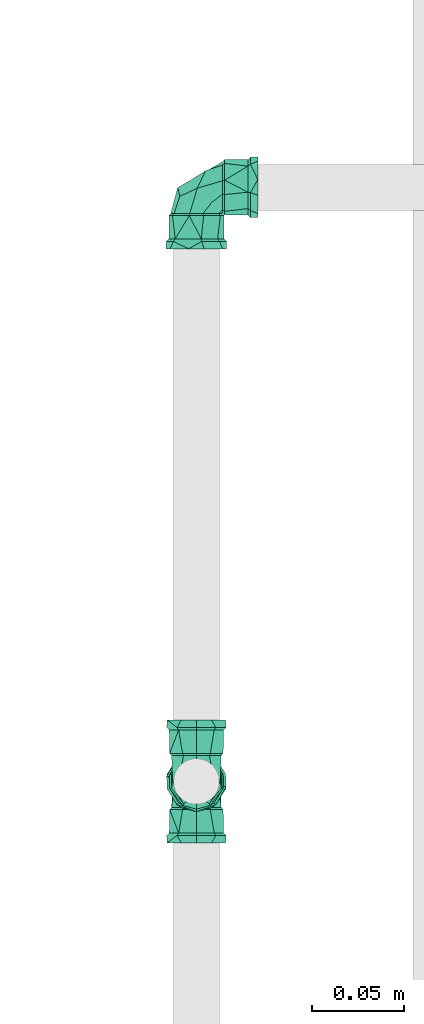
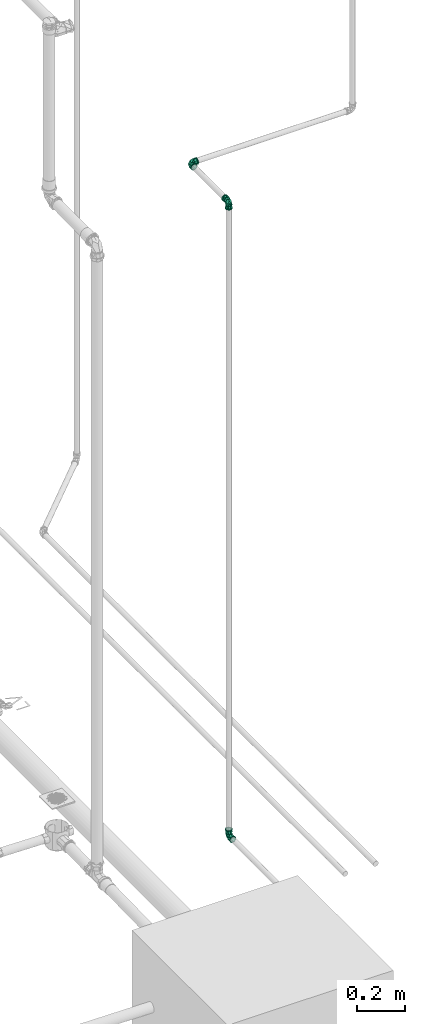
# One storey, part 319 of 589: 3 flow fittings.
"""IFC2X3 building model written with IfcOpenShell, lengths in millimetres."""

from ifc_helpers import new_model, entity, si_unit, converted_unit, derived_unit, direction, frame, origin, place, context, subcontext, project, spatial, faceted_brep, source, transform, mapped, material, type_object, type_shapes, element, save


model = new_model("IFC2X3")

# Units and contexts
model_context = context("Model", 3, precision=0.01, world=origin(), true_north=direction((6.123031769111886e-17, 1.0)))
body_context = subcontext(model_context, "Body", "Model", "MODEL_VIEW")
ifc_project = project(units=[si_unit("LENGTHUNIT", "METRE", prefix="MILLI"), si_unit("AREAUNIT", "SQUARE_METRE"), si_unit("VOLUMEUNIT", "CUBIC_METRE"), converted_unit("PLANEANGLEUNIT", "DEGREE", entity("IfcRatioMeasure", 0.017453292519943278), si_unit("PLANEANGLEUNIT", "RADIAN"), dimensions=[0, 0, 0, 0, 0, 0, 0]), si_unit("MASSUNIT", "GRAM", prefix="KILO"), derived_unit("MASSDENSITYUNIT", [(si_unit("MASSUNIT", "GRAM", prefix="KILO"), 1), (si_unit("LENGTHUNIT", "METRE"), -3)]), derived_unit("IONCONCENTRATIONUNIT", [(si_unit("MASSUNIT", "GRAM", prefix="KILO"), 1), (si_unit("LENGTHUNIT", "METRE"), -3)]), derived_unit("MOMENTOFINERTIAUNIT", [(si_unit("LENGTHUNIT", "METRE"), 4)]), si_unit("TIMEUNIT", "SECOND"), si_unit("FREQUENCYUNIT", "HERTZ"), si_unit("THERMODYNAMICTEMPERATUREUNIT", "DEGREE_CELSIUS"), derived_unit("THERMALTRANSMITTANCEUNIT", [(si_unit("MASSUNIT", "GRAM", prefix="KILO"), 1), (si_unit("THERMODYNAMICTEMPERATUREUNIT", "KELVIN"), -1), (si_unit("TIMEUNIT", "SECOND"), -3)]), derived_unit("THERMALCONDUCTANCEUNIT", [(si_unit("MASSUNIT", "GRAM", prefix="KILO"), 1), (si_unit("THERMODYNAMICTEMPERATUREUNIT", "KELVIN"), -1), (si_unit("TIMEUNIT", "SECOND"), -3), (si_unit("LENGTHUNIT", "METRE"), 1)]), derived_unit("VOLUMETRICFLOWRATEUNIT", [(si_unit("LENGTHUNIT", "METRE"), 3), (si_unit("TIMEUNIT", "SECOND"), -1)]), derived_unit("MASSFLOWRATEUNIT", [(si_unit("MASSUNIT", "GRAM", prefix="KILO"), 1), (si_unit("TIMEUNIT", "SECOND"), -1)]), derived_unit("ROTATIONALFREQUENCYUNIT", [(si_unit("TIMEUNIT", "SECOND"), -1)]), si_unit("ELECTRICCURRENTUNIT", "AMPERE"), si_unit("ELECTRICVOLTAGEUNIT", "VOLT"), si_unit("POWERUNIT", "WATT"), si_unit("FORCEUNIT", "NEWTON", prefix="KILO"), si_unit("ILLUMINANCEUNIT", "LUX"), si_unit("LUMINOUSFLUXUNIT", "LUMEN"), si_unit("LUMINOUSINTENSITYUNIT", "CANDELA"), derived_unit("USERDEFINED", [(si_unit("MASSUNIT", "GRAM", prefix="KILO"), -1), (si_unit("LENGTHUNIT", "METRE"), -2), (si_unit("TIMEUNIT", "SECOND"), 3), (si_unit("LUMINOUSFLUXUNIT", "LUMEN"), 1)]), derived_unit("USERDEFINED", [(si_unit("MASSUNIT", "GRAM", prefix="KILO"), 1), (si_unit("TIMEUNIT", "SECOND"), -3), (si_unit("LENGTHUNIT", "METRE"), 3), (si_unit("ELECTRICCURRENTUNIT", "AMPERE"), -2)]), derived_unit("SOUNDPOWERUNIT", [(si_unit("MASSUNIT", "GRAM", prefix="KILO"), 1), (si_unit("TIMEUNIT", "SECOND"), -3), (si_unit("LENGTHUNIT", "METRE"), 2)]), derived_unit("SOUNDPRESSUREUNIT", [(si_unit("MASSUNIT", "GRAM", prefix="KILO"), 1), (si_unit("LENGTHUNIT", "METRE"), -1), (si_unit("TIMEUNIT", "SECOND"), -2)]), derived_unit("LINEARVELOCITYUNIT", [(si_unit("LENGTHUNIT", "METRE"), 1), (si_unit("TIMEUNIT", "SECOND"), -1)]), si_unit("PRESSUREUNIT", "PASCAL"), derived_unit("USERDEFINED", [(si_unit("MASSUNIT", "GRAM", prefix="KILO"), 1), (si_unit("LENGTHUNIT", "METRE"), -2), (si_unit("TIMEUNIT", "SECOND"), -2)]), derived_unit("LINEARFORCEUNIT", [(si_unit("MASSUNIT", "GRAM", prefix="KILO"), 1), (si_unit("TIMEUNIT", "SECOND"), -2)]), derived_unit("PLANARFORCEUNIT", [(si_unit("MASSUNIT", "GRAM", prefix="KILO"), 1), (si_unit("LENGTHUNIT", "METRE"), -1), (si_unit("TIMEUNIT", "SECOND"), -2)]), derived_unit("SPECIFICHEATCAPACITYUNIT", [(si_unit("THERMODYNAMICTEMPERATUREUNIT", "KELVIN"), -1), (si_unit("LENGTHUNIT", "METRE"), 2), (si_unit("TIMEUNIT", "SECOND"), -2)]), derived_unit("HEATINGVALUEUNIT", [(si_unit("LENGTHUNIT", "METRE"), 2), (si_unit("TIMEUNIT", "SECOND"), -2)]), derived_unit("VAPORPERMEABILITYUNIT", [(si_unit("LENGTHUNIT", "METRE"), -1), (si_unit("TIMEUNIT", "SECOND"), 1)]), derived_unit("DYNAMICVISCOSITYUNIT", [(si_unit("MASSUNIT", "GRAM", prefix="KILO"), 1), (si_unit("TIMEUNIT", "SECOND"), -1), (si_unit("LENGTHUNIT", "METRE"), -1)]), derived_unit("THERMALEXPANSIONCOEFFICIENTUNIT", [(si_unit("THERMODYNAMICTEMPERATUREUNIT", "KELVIN"), -1)]), derived_unit("MODULUSOFELASTICITYUNIT", [(si_unit("MASSUNIT", "GRAM", prefix="KILO"), 1), (si_unit("LENGTHUNIT", "METRE"), -1), (si_unit("TIMEUNIT", "SECOND"), -2)]), derived_unit("ISOTHERMALMOISTURECAPACITYUNIT", [(si_unit("LENGTHUNIT", "METRE"), 3), (si_unit("MASSUNIT", "GRAM", prefix="KILO"), -1)]), derived_unit("MOISTUREDIFFUSIVITYUNIT", [(si_unit("TIMEUNIT", "SECOND"), -1), (si_unit("LENGTHUNIT", "METRE"), 2)])], contexts=[model_context])

# Site, building, storey
site_placement = place(None, origin())
site = spatial("IfcSite", under=ifc_project, at=site_placement, Name="Default", CompositionType="ELEMENT")
building_placement = place(site_placement, origin())
building = spatial("IfcBuilding", under=site, at=building_placement, CompositionType="ELEMENT")
storey_placement = place(building_placement, frame((0.0, 0.0, 100.0)))
storey = spatial("IfcBuildingStorey", under=building, at=storey_placement, Name="TÉRREO", CompositionType="ELEMENT", Elevation=100.0)

# Flow fittings
ifc_material = material(Name="PVC Marrom")
pipe_fitting_type = type_object("IfcPipeFittingType", Name="PVC Marrom Soldável_Joelho 45°_90°_Rodrigo MEP:Joelho", PredefinedType="NOTDEFINED", material=ifc_material)
shared_shape = source(origin(), body_context, "Body", "Brep", [
    faceted_brep([(3.908167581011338, 15.40000000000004, 14.585479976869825), (13.076983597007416, 15.40000000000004, 7.549999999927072), (15.099999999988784, 15.40000000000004, 0.0), (13.076983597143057, 15.40000000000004, -7.55000000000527), (3.9081675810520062, 15.40000000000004, -14.585479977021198), (-3.9081675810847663, 15.40000000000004, -14.585479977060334), (-13.076983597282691, 15.40000000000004, -7.550000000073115), (-15.100000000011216, 15.40000000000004, 0.0), (-13.076983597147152, 15.40000000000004, 7.549999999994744), (-3.908167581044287, 15.40000000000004, 14.585479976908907), (-3.633819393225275, 14.30000000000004, 13.561598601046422), (-12.158996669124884, 14.30000000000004, 7.0199999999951), (-14.040000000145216, 14.30000000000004, 0.0), (-12.158996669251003, 14.30000000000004, -7.020000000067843), (-3.6338193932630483, 14.30000000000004, -13.561598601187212), (3.6338193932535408, 14.30000000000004, -13.561598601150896), (12.158996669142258, 14.30000000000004, -7.020000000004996), (14.039999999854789, 14.30000000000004, 0.0), (12.158996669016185, 14.30000000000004, 7.0199999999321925), (3.6338193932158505, 14.30000000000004, 13.561598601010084)], [[[0, 1, 2, 3, 4, 5, 6, 7, 8, 9]], [[10, 11, 12, 13, 14, 15, 16, 17, 18, 19]], [[3, 17, 16]], [[4, 3, 16, 15]], [[3, 2, 17]], [[15, 14, 5, 4]], [[6, 5, 14, 13]], [[7, 13, 12]], [[7, 6, 13]], [[8, 12, 11]], [[9, 8, 11, 10]], [[8, 7, 12]], [[10, 19, 0, 9]], [[1, 0, 19, 18]], [[2, 18, 17]], [[2, 1, 18]]]),
    faceted_brep([(-15.399999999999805, 3.908167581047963, 14.585479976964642), (-15.399999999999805, 13.076983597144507, 7.549999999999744), (-15.399999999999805, 15.100000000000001, 0.0), (-15.399999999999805, 13.076983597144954, -7.54999999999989), (-15.399999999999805, 3.9081675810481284, -14.58547997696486), (-15.399999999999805, -3.9081675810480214, -14.585479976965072), (-15.399999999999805, -13.0769835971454, -7.550000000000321), (-15.399999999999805, -15.099999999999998, 0.0), (-15.399999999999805, -13.076983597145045, 7.550000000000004), (-15.399999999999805, -3.908167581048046, 14.585479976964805), (-14.299999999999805, 12.158996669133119, 7.019999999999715), (-14.299999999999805, 3.6338193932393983, 13.561598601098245), (-14.299999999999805, -3.633819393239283, 13.56159860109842), (-14.299999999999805, -12.15899666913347, 7.020000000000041), (-14.299999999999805, -14.040000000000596, 0.0), (-14.299999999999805, -12.158996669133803, -7.020000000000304), (-14.299999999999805, -3.63381939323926, -13.561598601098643), (-14.299999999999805, 3.6338193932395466, -13.56159860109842), (-14.299999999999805, 12.158996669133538, -7.019999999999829), (-14.299999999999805, 14.03999999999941, 0.0)], [[[0, 1, 2, 3, 4, 5, 6, 7, 8, 9]], [[10, 11, 12, 13, 14, 15, 16, 17, 18, 19]], [[3, 2, 19, 18]], [[4, 3, 18, 17]], [[17, 16, 5, 4]], [[6, 5, 16, 15]], [[7, 6, 15, 14]], [[8, 7, 14, 13]], [[9, 8, 13, 12]], [[12, 11, 0, 9]], [[1, 0, 11, 10]], [[2, 1, 10, 19]]]),
    faceted_brep([(-33.4999999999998, -4.2705142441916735, -15.937776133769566), (-33.4999999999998, -6.250000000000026, -10.825317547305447), (-33.4999999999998, 0.0, -12.5), (-33.4999999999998, -14.289419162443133, -8.25000000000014), (-33.4999999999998, 4.270514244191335, -15.937776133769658), (-33.4999999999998, -12.074072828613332, -3.23523806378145), (-33.4999999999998, -16.499999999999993, 0.0), (-33.4999999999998, -12.074072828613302, 3.2352380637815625), (-33.4999999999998, -14.289419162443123, 8.249999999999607), (-33.4999999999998, -6.249999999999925, 10.825317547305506), (-33.4999999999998, -4.27051424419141, 15.937776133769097), (-33.4999999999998, 0.0, 12.5), (-33.4999999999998, 4.270514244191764, 15.937776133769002), (-33.4999999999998, 6.249999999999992, 10.825317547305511), (-33.4999999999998, 14.28941916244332, 8.249999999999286), (-33.4999999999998, 12.074072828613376, 3.2352380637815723), (-33.4999999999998, 16.500000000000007, 0.0), (-33.4999999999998, 12.074072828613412, -3.235238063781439), (-33.4999999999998, 14.289419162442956, -8.250000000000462), (-33.4999999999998, 6.250000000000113, -10.82531754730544), (-29.499999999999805, 16.5, 0.0), (-29.500000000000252, 12.639142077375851, 10.606700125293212), (-29.50000000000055, 2.8633833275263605, 16.249647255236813), (-29.50000000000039, -12.64180232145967, 10.603529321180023), (-29.499999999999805, -16.499999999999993, 0.0), (-29.500000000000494, -4.889209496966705, 13.426588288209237), (-29.49999999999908, -12.641802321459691, -10.603529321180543), (-29.49999999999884, -2.8674593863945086, -16.24892847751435), (-29.499999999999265, 12.639142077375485, -10.606700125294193), (-29.499999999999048, 4.885841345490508, -13.427814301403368), (-28.099999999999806, -15.099999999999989, 0.0), (-28.10000000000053, -11.56916454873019, 9.703835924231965), (-28.100000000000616, -4.474367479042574, 12.287362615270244), (-28.1000000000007, 2.6204295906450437, 14.870889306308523), (-28.100000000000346, 11.566730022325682, 9.706737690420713), (-28.09999999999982, 15.099999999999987, 0.0), (-28.099999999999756, 11.566730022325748, -9.706737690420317), (-28.09999999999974, 4.4712851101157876, -12.28848460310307), (-28.09999999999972, -2.6241598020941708, -14.870231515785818), (-28.09999999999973, -11.569164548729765, -9.703835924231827), (-15.399999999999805, 0.0, -12.5), (-15.399999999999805, -6.250000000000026, -10.825317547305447), (-15.399999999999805, -3.908167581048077, -14.585479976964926), (-15.399999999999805, 3.9081675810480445, -14.585479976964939), (-15.399999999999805, 6.250000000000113, -10.82531754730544), (-15.399999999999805, -13.076983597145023, -7.549999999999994), (-15.399999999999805, -12.074072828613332, -3.23523806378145), (-15.399999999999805, -15.099999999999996, 0.0), (-15.399999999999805, -12.074072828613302, 3.2352380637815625), (-15.399999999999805, -13.076983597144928, 7.550000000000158), (-15.399999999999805, -6.249999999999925, 10.825317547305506), (-15.399999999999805, -3.9081675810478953, 14.585479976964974), (-15.399999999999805, 0.0, 12.5), (-15.399999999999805, 3.9081675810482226, 14.58547997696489), (-15.399999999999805, 6.249999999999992, 10.825317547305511), (-15.399999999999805, 13.076983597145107, 7.549999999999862), (-15.399999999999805, 12.074072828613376, 3.2352380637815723), (-15.399999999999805, 15.100000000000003, 0.0), (-15.399999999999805, 12.074072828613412, -3.235238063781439), (-15.399999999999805, 13.076983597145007, -7.550000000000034)], [[[0, 1, 2]], [[1, 0, 3]], [[2, 4, 0]], [[3, 5, 1]], [[3, 6, 5]], [[5, 6, 7]], [[8, 7, 6]], [[7, 8, 9]], [[10, 9, 8]], [[9, 10, 11]], [[11, 10, 12]], [[12, 13, 11]], [[14, 13, 12]], [[13, 14, 15]], [[16, 15, 14]], [[16, 17, 15]], [[18, 17, 16]], [[19, 17, 18]], [[19, 18, 4]], [[4, 2, 19]], [[16, 14, 20]], [[14, 21, 20]], [[21, 14, 12]], [[21, 12, 22]], [[23, 10, 8]], [[24, 8, 6]], [[10, 23, 25, 22]], [[23, 8, 24]], [[10, 22, 12]], [[6, 3, 24]], [[3, 26, 24]], [[26, 3, 0]], [[26, 0, 27]], [[28, 4, 18]], [[20, 18, 16]], [[4, 28, 29, 27]], [[28, 18, 20]], [[4, 27, 0]], [[30, 31, 23, 24]], [[31, 32, 33, 22, 25, 23]], [[34, 35, 20, 21]], [[34, 21, 22, 33]], [[35, 36, 28, 20]], [[36, 37, 38, 27, 29, 28]], [[39, 30, 24, 26]], [[39, 26, 27, 38]], [[40, 41, 42]], [[42, 43, 40]], [[44, 40, 43]], [[45, 42, 41]], [[41, 46, 45]], [[46, 47, 45]], [[48, 47, 46]], [[47, 48, 49]], [[50, 49, 48]], [[49, 50, 51]], [[52, 51, 50]], [[53, 51, 52]], [[52, 54, 53]], [[53, 54, 55]], [[56, 55, 54]], [[55, 56, 57]], [[56, 58, 57]], [[59, 58, 44]], [[57, 58, 59]], [[43, 59, 44]], [[35, 34, 55]], [[35, 55, 57]], [[55, 34, 53]], [[34, 33, 53]], [[51, 33, 32, 31]], [[49, 31, 30]], [[31, 49, 51]], [[49, 30, 47]], [[33, 51, 53]], [[30, 39, 45]], [[30, 45, 47]], [[45, 39, 42]], [[39, 38, 42]], [[43, 38, 37, 36]], [[59, 36, 35]], [[36, 59, 43]], [[59, 35, 57]], [[38, 43, 42]], [[9, 11, 52, 50]], [[7, 9, 50, 48]], [[48, 46, 5, 7]], [[1, 5, 46, 41]], [[2, 1, 41, 40]], [[19, 2, 40, 44]], [[17, 19, 44, 58]], [[58, 56, 15, 17]], [[13, 15, 56, 54]], [[11, 13, 54, 52]]]),
    faceted_brep([(-14.299999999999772, -3.6338193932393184, -13.561598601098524), (-14.299999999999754, -12.158996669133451, -7.020000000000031), (-14.29999999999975, -14.039999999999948, 0.0), (-14.299999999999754, -12.158996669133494, 7.019999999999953), (-14.299999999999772, -3.6338193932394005, 13.561598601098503), (-14.299999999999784, 3.633819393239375, 13.561598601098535), (-14.299999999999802, 12.158996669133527, 7.0200000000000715), (-14.299999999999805, 14.04000000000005, 0.0), (-14.299999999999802, 12.158996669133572, -7.019999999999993), (-14.299999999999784, 3.63381939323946, -13.561598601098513), (3.633819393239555, 14.29999999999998, -13.561598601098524), (-3.633819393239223, 14.300000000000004, -13.561598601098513), (-12.158996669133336, 14.300000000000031, -7.019999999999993), (-14.039999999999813, 14.300000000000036, 0.0), (-12.158996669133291, 14.300000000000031, 7.0200000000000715), (-3.6338193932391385, 14.300000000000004, 13.561598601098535), (3.6338193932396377, 14.29999999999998, 13.561598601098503), (12.158996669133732, 14.299999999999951, 7.019999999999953), (14.040000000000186, 14.299999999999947, 0.0), (12.158996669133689, 14.299999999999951, -7.020000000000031), (-0.45476175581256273, 0.4547603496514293, 13.009299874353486), (-4.991226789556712, -9.102895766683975, 8.866254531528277), (-2.689013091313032, -7.336393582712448, 0.0), (3.7770734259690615, -3.6031967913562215, 0.0), (9.09033094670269, 4.905775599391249, 8.841582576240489), (10.243159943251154, 0.13000000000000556, 0.0), (-14.116152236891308, 14.116152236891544, 0.0), (-8.296884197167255, 8.29688403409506, 12.78130953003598), (-0.454761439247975, 0.45476027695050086, -13.009299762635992), (-8.296884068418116, 8.296883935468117, -12.78130960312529), (9.090330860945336, 4.90577564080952, -8.84158269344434), (-4.991226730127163, -9.10289574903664, -8.866254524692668)], [[[0, 1, 2, 3, 4, 5, 6, 7, 8, 9]], [[10, 11, 12, 13, 14, 15, 16, 17, 18, 19]], [[4, 20, 5]], [[21, 3, 22]], [[20, 4, 21]], [[21, 22, 23]], [[17, 24, 25]], [[26, 6, 14]], [[23, 20, 21]], [[26, 7, 6]], [[6, 5, 27]], [[3, 2, 22]], [[20, 23, 24]], [[25, 18, 17]], [[20, 27, 5]], [[16, 20, 24]], [[17, 16, 24]], [[6, 27, 14]], [[26, 14, 13]], [[21, 4, 3]], [[27, 15, 14]], [[27, 20, 15]], [[23, 25, 24]], [[15, 20, 16]], [[8, 7, 26]], [[28, 29, 11]], [[28, 10, 30]], [[8, 12, 29]], [[31, 22, 1]], [[31, 23, 22]], [[28, 9, 29]], [[19, 30, 10]], [[0, 28, 31]], [[1, 22, 2]], [[8, 26, 12]], [[12, 11, 29]], [[8, 29, 9]], [[31, 1, 0]], [[10, 28, 11]], [[30, 19, 25]], [[0, 9, 28]], [[19, 18, 25]], [[25, 23, 30]], [[23, 31, 28]], [[30, 23, 28]], [[12, 26, 13]]]),
    faceted_brep([(0.0, 15.40000000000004, -12.5), (-6.249999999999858, 15.40000000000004, -10.825317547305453), (-3.908167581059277, 15.40000000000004, -14.585479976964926), (3.9081675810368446, 15.40000000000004, -14.585479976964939), (6.250000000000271, 15.40000000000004, -10.82531754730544), (-13.076983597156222, 15.40000000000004, -7.549999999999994), (-12.07407282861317, 15.40000000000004, -3.235238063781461), (-15.100000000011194, 15.40000000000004, 0.0), (-12.074072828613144, 15.40000000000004, 3.2352380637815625), (-13.076983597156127, 15.40000000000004, 7.550000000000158), (-6.249999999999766, 15.40000000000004, 10.825317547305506), (-3.9081675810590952, 15.40000000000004, 14.585479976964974), (0.0, 15.40000000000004, 12.5), (3.9081675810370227, 15.40000000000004, 14.58547997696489), (6.250000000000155, 15.40000000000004, 10.825317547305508), (13.076983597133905, 15.40000000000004, 7.549999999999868), (12.074072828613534, 15.40000000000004, 3.2352380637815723), (15.099999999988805, 15.40000000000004, 0.0), (12.07407282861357, 15.40000000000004, -3.235238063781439), (13.07698359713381, 15.40000000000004, -7.550000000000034), (15.099999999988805, 28.10000000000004, 0.0), (11.56673002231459, 28.100000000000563, 9.706737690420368), (4.471285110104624, 28.10000000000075, 12.288484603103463), (-2.624159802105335, 28.100000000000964, 14.870231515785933), (-11.569164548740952, 28.10000000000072, 9.703835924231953), (-15.100000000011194, 28.10000000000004, 0.0), (-11.569164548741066, 28.10000000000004, -9.703835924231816), (-4.474367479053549, 28.10000000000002, -12.287362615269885), (2.6204295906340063, 28.099999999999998, -14.870889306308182), (11.566730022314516, 28.10000000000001, -9.706737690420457), (-12.639142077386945, 29.50000000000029, 10.606700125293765), (-16.50000000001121, 29.500000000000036, 0.0), (-2.8633833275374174, 29.50000000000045, 16.249647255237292), (12.641802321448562, 29.500000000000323, 10.603529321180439), (4.889209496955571, 29.500000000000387, 13.426588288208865), (16.499999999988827, 29.50000000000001, 0.0), (12.64180232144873, 29.500000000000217, -10.603529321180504), (2.867459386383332, 29.500000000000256, -16.24892847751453), (-12.639142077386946, 29.500000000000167, -10.606700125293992), (-4.885841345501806, 29.500000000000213, -13.427814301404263), (-4.270514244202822, 33.50000000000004, -15.937776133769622), (-6.249999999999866, 33.50000000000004, -10.825317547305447), (0.0, 33.50000000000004, -12.5), (-14.289419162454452, 33.50000000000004, -8.249999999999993), (4.270514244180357, 33.50000000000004, -15.937776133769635), (-12.074072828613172, 33.50000000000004, -3.23523806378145), (-16.50000000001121, 33.50000000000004, 0.0), (-12.074072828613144, 33.50000000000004, 3.2352380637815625), (-14.28941916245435, 33.50000000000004, 8.250000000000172), (-6.2499999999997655, 33.50000000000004, 10.825317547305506), (-4.270514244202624, 33.50000000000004, 15.937776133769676), (0.0, 33.50000000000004, 12.5), (4.270514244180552, 33.50000000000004, 15.937776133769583), (6.250000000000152, 33.50000000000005, 10.825317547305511), (14.289419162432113, 33.50000000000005, 8.249999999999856), (12.074072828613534, 33.50000000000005, 3.2352380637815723), (16.49999999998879, 33.50000000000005, 0.0), (12.07407282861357, 33.50000000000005, -3.235238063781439), (14.289419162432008, 33.50000000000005, -8.250000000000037), (6.250000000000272, 33.50000000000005, -10.82531754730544)], [[[0, 1, 2]], [[2, 3, 0]], [[4, 0, 3]], [[5, 2, 1]], [[1, 6, 5]], [[6, 7, 5]], [[8, 7, 6]], [[7, 8, 9]], [[10, 9, 8]], [[9, 10, 11]], [[12, 11, 10]], [[13, 11, 12]], [[12, 14, 13]], [[13, 14, 15]], [[16, 15, 14]], [[15, 16, 17]], [[16, 18, 17]], [[19, 18, 4]], [[17, 18, 19]], [[3, 19, 4]], [[20, 21, 15]], [[20, 15, 17]], [[15, 21, 13]], [[13, 21, 22, 23]], [[11, 23, 24]], [[9, 24, 25]], [[24, 9, 11]], [[9, 25, 7]], [[23, 11, 13]], [[25, 26, 5]], [[25, 5, 7]], [[5, 26, 2]], [[2, 26, 27, 28]], [[3, 28, 29]], [[19, 29, 20]], [[29, 19, 3]], [[19, 20, 17]], [[28, 3, 2]], [[24, 23, 30]], [[25, 24, 31]], [[31, 24, 30]], [[23, 32, 30]], [[21, 20, 33]], [[21, 33, 34]], [[22, 32, 23]], [[35, 33, 20]], [[32, 22, 34]], [[22, 21, 34]], [[20, 29, 36]], [[36, 35, 20]], [[37, 36, 29]], [[38, 39, 27]], [[29, 28, 37]], [[26, 25, 31]], [[38, 27, 26]], [[38, 26, 31]], [[28, 39, 37]], [[39, 28, 27]], [[40, 41, 42]], [[41, 40, 43]], [[42, 44, 40]], [[43, 45, 41]], [[43, 46, 45]], [[45, 46, 47]], [[48, 47, 46]], [[47, 48, 49]], [[50, 49, 48]], [[49, 50, 51]], [[51, 50, 52]], [[52, 53, 51]], [[54, 53, 52]], [[53, 54, 55]], [[56, 55, 54]], [[56, 57, 55]], [[58, 57, 56]], [[59, 57, 58]], [[59, 58, 44]], [[44, 42, 59]], [[56, 54, 35]], [[54, 33, 35]], [[33, 54, 52]], [[52, 32, 34, 33]], [[30, 50, 48]], [[31, 48, 46]], [[50, 30, 32]], [[30, 48, 31]], [[50, 32, 52]], [[46, 43, 31]], [[43, 38, 31]], [[38, 43, 40]], [[40, 37, 39, 38]], [[36, 44, 58]], [[35, 58, 56]], [[44, 36, 37]], [[36, 58, 35]], [[44, 37, 40]], [[49, 51, 12, 10]], [[47, 49, 10, 8]], [[8, 6, 45, 47]], [[41, 45, 6, 1]], [[42, 41, 1, 0]], [[59, 42, 0, 4]], [[57, 59, 4, 18]], [[18, 16, 55, 57]], [[53, 55, 16, 14]], [[51, 53, 14, 12]]]),
])
type_shapes(pipe_fitting_type, [shared_shape])
for number, where, z_axis, x_axis in (
    (1, (2482.5321732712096, -10072.531283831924, -250.0), (1.0, 0.0, 0.0), (0.0, 1.0, 0.0)),
    (2, (2482.5321732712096, -9748.296034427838, 2984.899999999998), (0.0, 0.0, 1.0), (-1.0, 0.0, 0.0)),
    (3, (2482.5321732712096, -10072.531283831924, 2984.899999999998), (-1.0, 0.0, 0.0), (0.0, 0.0, 1.0)),
):
    element("IfcFlowFitting", number, at=place(storey_placement, frame(where, z_axis=z_axis, x_axis=x_axis)), inside=storey, type_object=pipe_fitting_type, material=ifc_material, Name="PVC Marrom Soldável_Joelho 45°_90°_Rodrigo MEP:Joelho", ObjectType="PVC Marrom Soldável_Joelho 45°_90°_Rodrigo MEP:Joelho", context=body_context, shape_type="MappedRepresentation", body=[
        mapped(shared_shape, transform((0.0, 0.0, 0.0), scale=1.0)),
    ])

save(model, "model.ifc")
